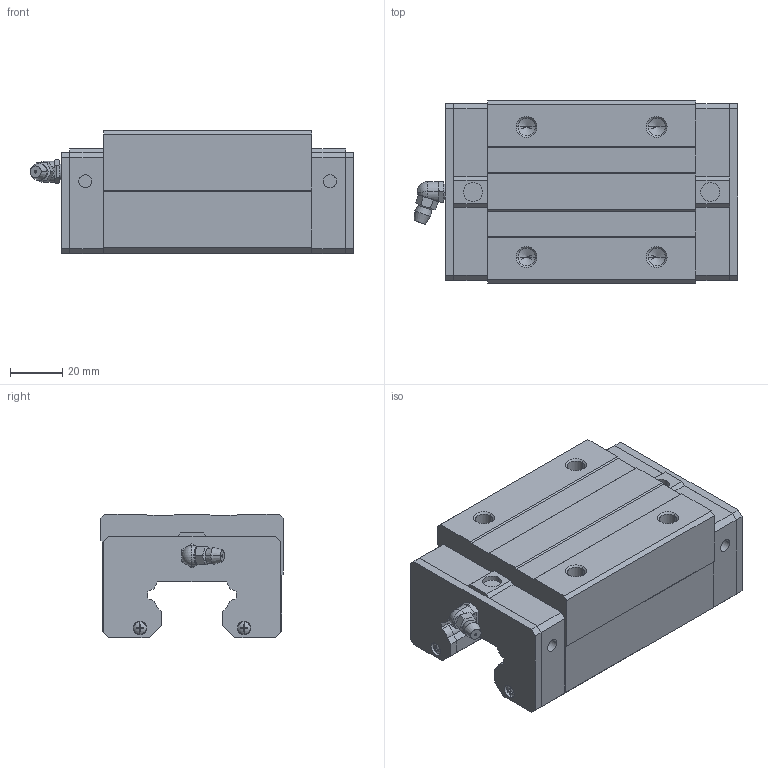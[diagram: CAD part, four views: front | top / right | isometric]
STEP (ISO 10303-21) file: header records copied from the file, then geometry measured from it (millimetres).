
FILE_DESCRIPTION(('starvars output'),'2;1');
FILE_NAME('cv20190617061207000042247.stp','06:12:07 2019/06/17',( 'Thomas Industrial Network Germany GmbH'),( 'Thomas Industrial Network Germany GmbH'),'unknown preprocess','ACIS' ,'unknown authorization');
FILE_SCHEMA(('CONFIG_CONTROL_DESIGN {UNKNOWN IMPLEMENTATION LEVEL}'));
Length unit declared in the file: millimetre
Products named in the file (10): PRODUCT_ID_1; PRODUCT_ID_2; PRODUCT_ID_3; PRODUCT_ID_4; PRODUCT_ID_5; PRODUCT_ID_6; PRODUCT_ID_7; PRODUCT_ID_8; PRODUCT_ID_9; PRODUCT_ID_10
Bounding box: 124.4 x 70 x 47.5 mm (x, y, z)
Volume: 278758.6 mm3; surface area: 55404.7 mm2
Topology: 10 solids, 10 shells, 387 faces, 978 edges, 620 vertices
Faces by surface type: plane 240, cylinder 71, cone 64, sphere 12
Entity records: 11111 total; most frequent: ORIENTED_EDGE 1932, CARTESIAN_POINT 1813, DIRECTION 1513, EDGE_CURVE 966, VECTOR 621, LINE 621, VERTEX_POINT 620, AXIS2_PLACEMENT_3D 446
